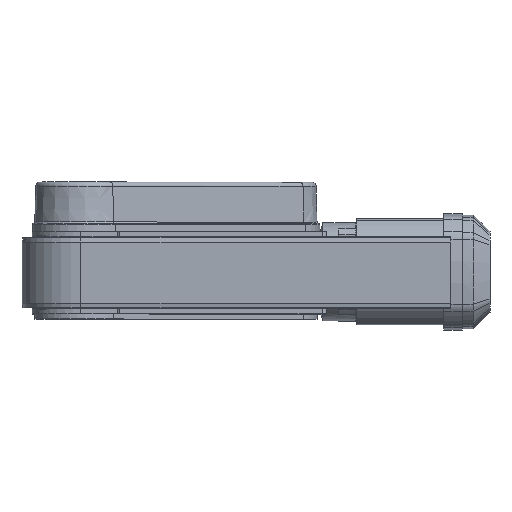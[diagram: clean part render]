
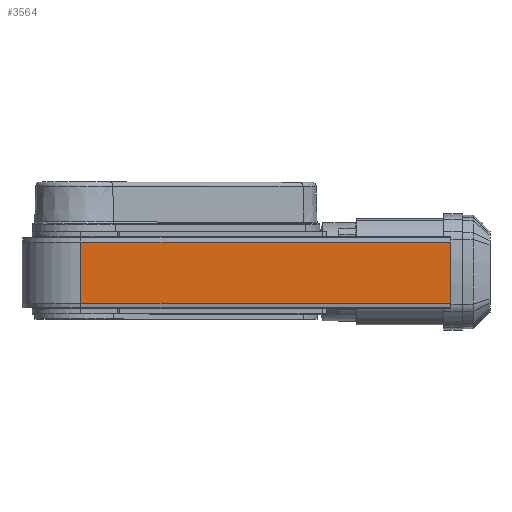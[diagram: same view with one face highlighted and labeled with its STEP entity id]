
A CAD part, top view. The second image highlights one B-rep face of the part: STEP entity #3564.
In plain terms, the highlighted planar face has unit normal (0, 0, 1).
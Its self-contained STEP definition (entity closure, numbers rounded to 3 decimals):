
#2984=CARTESIAN_POINT('',(-70.0,-36.5,0.0));
#2985=VERTEX_POINT('',#2984);
#3017=CARTESIAN_POINT('',(-70.0,36.5,0.0));
#3018=VERTEX_POINT('',#3017);
#3026=CARTESIAN_POINT('',(-70.0,-36.5,0.0));
#3027=DIRECTION('',(0.0,1.0,0.0));
#3028=VECTOR('',#3027,73.0);
#3029=LINE('',#3026,#3028);
#3030=EDGE_CURVE('',#2985,#3018,#3029,.T.);
#3522=CARTESIAN_POINT('',(-510.0,-36.5,0.0));
#3523=VERTEX_POINT('',#3522);
#3524=CARTESIAN_POINT('',(-510.0,-36.5,0.0));
#3525=DIRECTION('',(1.0,0.0,0.0));
#3526=VECTOR('',#3525,440.0);
#3527=LINE('',#3524,#3526);
#3528=EDGE_CURVE('',#3523,#2985,#3527,.T.);
#3541=CARTESIAN_POINT('',(-510.0,0.0,0.0));
#3542=DIRECTION('',(0.0,0.0,1.0));
#3543=DIRECTION('',(1.0,0.0,0.0));
#3544=AXIS2_PLACEMENT_3D('',#3541,#3542,#3543);
#3545=PLANE('',#3544);
#3546=CARTESIAN_POINT('',(-510.0,36.5,0.0));
#3547=VERTEX_POINT('',#3546);
#3548=CARTESIAN_POINT('',(-510.0,36.5,0.0));
#3549=DIRECTION('',(1.0,0.0,0.0));
#3550=VECTOR('',#3549,440.0);
#3551=LINE('',#3548,#3550);
#3552=EDGE_CURVE('',#3547,#3018,#3551,.T.);
#3553=ORIENTED_EDGE('',*,*,#3552,.F.);
#3554=CARTESIAN_POINT('',(-510.0,36.5,0.0));
#3555=DIRECTION('',(0.0,-1.0,0.0));
#3556=VECTOR('',#3555,73.0);
#3557=LINE('',#3554,#3556);
#3558=EDGE_CURVE('',#3547,#3523,#3557,.T.);
#3559=ORIENTED_EDGE('',*,*,#3558,.T.);
#3560=ORIENTED_EDGE('',*,*,#3528,.T.);
#3561=ORIENTED_EDGE('',*,*,#3030,.T.);
#3562=EDGE_LOOP('',(#3553,#3559,#3560,#3561));
#3563=FACE_OUTER_BOUND('',#3562,.T.);
#3564=ADVANCED_FACE('',(#3563),#3545,.T.);
